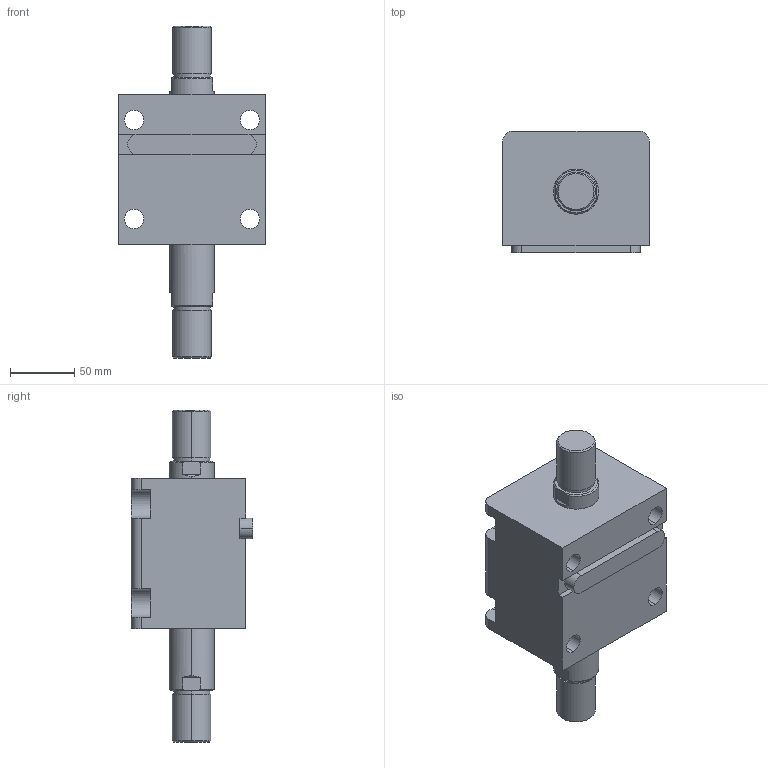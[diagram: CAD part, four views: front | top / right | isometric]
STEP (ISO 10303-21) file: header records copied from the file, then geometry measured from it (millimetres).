
FILE_DESCRIPTION (( 'STEP AP203' ), '1' );
FILE_NAME ('HTB-LW63-35W.STEP', '2019-10-09T08:25:33', ( '微软用户' ), ( '微软中国' ), 'SwSTEP 2.0', 'SolidWorks 2012', '' );
FILE_SCHEMA (( 'CONFIG_CONTROL_DESIGN' ));
Length unit declared in the file: millimetre
Products named in the file (4): HTB-LW63-35W; HTB-LA63-瑩; HTB-LW63-35W活塞杆; HTB-LW63-35掛极
Assembly tree (3 placements, depth 2):
  HTB-LW63-35W
    HTB-LW63-35掛极
    HTB-LW63-35W活塞杆
    HTB-LA63-瑩
Bounding box: 114 x 94.5 x 258 mm (x, y, z)
Volume: 1147562.2 mm3; surface area: 144056.3 mm2
Topology: 3 solids, 3 shells, 109 faces, 265 edges, 174 vertices
Faces by surface type: plane 48, cylinder 45, cone 12, torus 4
Entity records: 3679 total; most frequent: CARTESIAN_POINT 610, DIRECTION 593, ORIENTED_EDGE 530, EDGE_CURVE 265, AXIS2_PLACEMENT_3D 229, VERTEX_POINT 174, VECTOR 135, LINE 135
